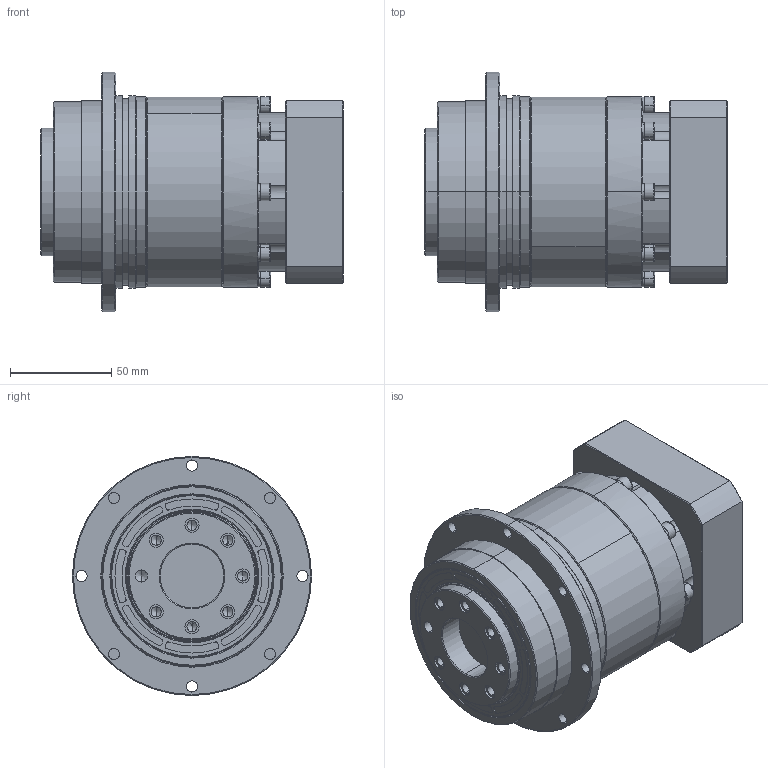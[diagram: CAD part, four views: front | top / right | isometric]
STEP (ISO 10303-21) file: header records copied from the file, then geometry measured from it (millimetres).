
FILE_DESCRIPTION (( 'STEP AP214' ), '1' );
FILE_NAME ('VRT-090-L2-P1 19-70-90-M5.STEP', '2023-08-16T01:48:05', ( '微软用户' ), ( '微软中国' ), 'SwSTEP 2.0', 'SolidWorks 2018', '' );
FILE_SCHEMA (( 'AUTOMOTIVE_DESIGN' ));
Length unit declared in the file: millimetre
Products named in the file (14): 標杶VRT-090 D19; 笢潔楊擘VRT-090; VRT-090一级整体太阳轮D19外形图; 一级输出轴VRT-090外形图; hexagon socket head cap screws gb_GB_FASTENER_SCREWS_HSHCS M5X20-N; 萇儂楊擘VRT-090 D70-M5-90F90H28.5; VRT-090-L2-P1 19-70-90-M5; spring lock washers--normal type gb_GB_FASTENER_WASHER_SW 5; 蚐猾65x80x7; 一级齿圈VRT-090外形图; hexagon socket head cap screws gb_GB_FASTENER_SCREWS_HSHCS M5X30-N; hex socket set screws with flat point gb_GB_FASTENER_SCREWS_HSFP M12X12-N; 二级齿圈VRT-090 外形图; hexagon socket head cap screws gb_GB_FASTENER_SCREWS_HSHCS M6X20-N
Assembly tree (38 placements, depth 2):
  VRT-090-L2-P1 19-70-90-M5
    一级齿圈VRT-090外形图
    一级输出轴VRT-090外形图
    笢潔楊擘VRT-090
    VRT-090一级整体太阳轮D19外形图
    標杶VRT-090 D19
    萇儂楊擘VRT-090 D70-M5-90F90H28.5
    蚐猾65x80x7
    spring lock washers--normal type gb_GB_FASTENER_WASHER_SW 5  x14
    hexagon socket head cap screws gb_GB_FASTENER_SCREWS_HSHCS M5X30-N  x8
    hexagon socket head cap screws gb_GB_FASTENER_SCREWS_HSHCS M6X20-N
    hexagon socket head cap screws gb_GB_FASTENER_SCREWS_HSHCS M5X20-N  x6
    hex socket set screws with flat point gb_GB_FASTENER_SCREWS_HSFP M12X12-N
    二级齿圈VRT-090 外形图
Bounding box: 149 x 118 x 118 mm (x, y, z)
Volume: 814104.9 mm3; surface area: 179621.9 mm2
Topology: 38 solids, 38 shells, 1177 faces, 2870 edges, 1774 vertices
Faces by surface type: cylinder 461, plane 453, cone 221, bspline 42
Entity records: 23806 total; most frequent: CARTESIAN_POINT 4787, DIRECTION 4166, ORIENTED_EDGE 3644, EDGE_CURVE 1822, AXIS2_PLACEMENT_3D 1699, VERTEX_POINT 1170, CIRCLE 929, EDGE_LOOP 892
